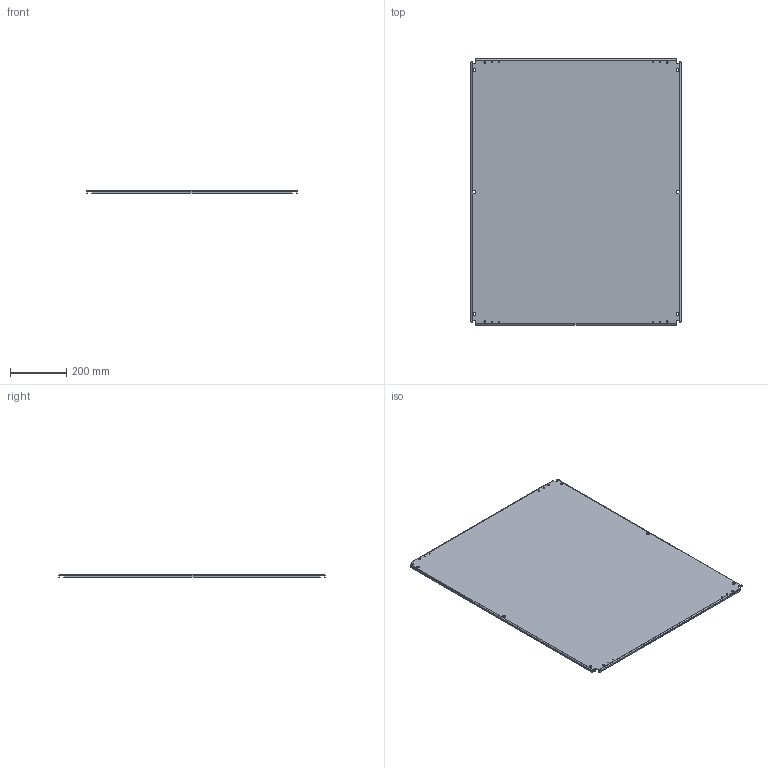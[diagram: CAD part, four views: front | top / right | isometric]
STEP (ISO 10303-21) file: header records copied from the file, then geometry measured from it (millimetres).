
FILE_DESCRIPTION (( 'STEP AP203' ), '1' );
FILE_NAME ('ECPA100080.STEP', '2020-04-09T08:16:35', ( '' ), ( '' ), 'SwSTEP 2.0', 'SolidWorks 2019', '' );
FILE_SCHEMA (( 'CONFIG_CONTROL_DESIGN' ));
Length unit declared in the file: millimetre
Products named in the file (1): ECPA100080
Bounding box: 750 x 950 x 9.8 mm (x, y, z)
Volume: 1680747.4 mm3; surface area: 1470499.9 mm2
Topology: 1 solids, 1 shells, 102 faces, 272 edges, 172 vertices
Faces by surface type: cylinder 52, plane 50
Entity records: 3329 total; most frequent: DIRECTION 586, CARTESIAN_POINT 547, ORIENTED_EDGE 544, EDGE_CURVE 272, AXIS2_PLACEMENT_3D 211, VERTEX_POINT 172, LINE 164, VECTOR 164
